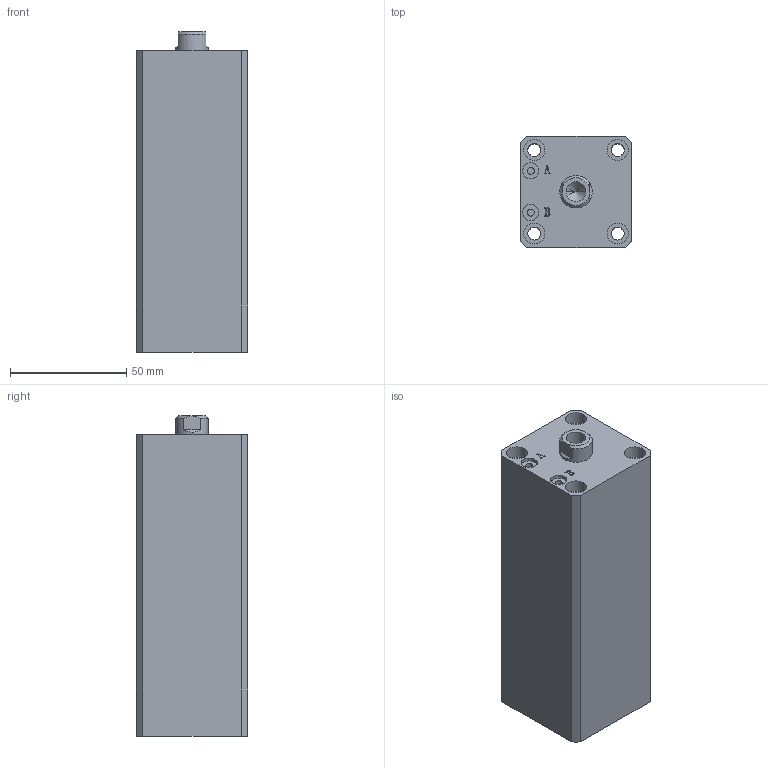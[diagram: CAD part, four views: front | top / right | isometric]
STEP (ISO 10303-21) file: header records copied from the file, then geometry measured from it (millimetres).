
FILE_DESCRIPTION (( 'STEP AP203' ), '1' );
FILE_NAME ('HTB-SDMA25-85N.STEP', '2019-10-07T11:13:13', ( '微软用户' ), ( '微软中国' ), 'SwSTEP 2.0', 'SolidWorks 2012', '' );
FILE_SCHEMA (( 'CONFIG_CONTROL_DESIGN' ));
Length unit declared in the file: millimetre
Products named in the file (3): HTB-SDMA25-85N; HTB-SDMA25-85N活塞杆; HTB-SDMA25-85掛极
Assembly tree (2 placements, depth 2):
  HTB-SDMA25-85N
    HTB-SDMA25-85掛极
    HTB-SDMA25-85N活塞杆
Bounding box: 48 x 48 x 138 mm (x, y, z)
Volume: 254176.1 mm3; surface area: 55547.1 mm2
Topology: 2 solids, 2 shells, 137 faces, 329 edges, 215 vertices
Faces by surface type: plane 65, cylinder 46, bspline 16, torus 6, cone 4
Entity records: 5072 total; most frequent: CARTESIAN_POINT 1592, ORIENTED_EDGE 654, DIRECTION 645, EDGE_CURVE 327, AXIS2_PLACEMENT_3D 232, VERTEX_POINT 215, LINE 181, VECTOR 181
